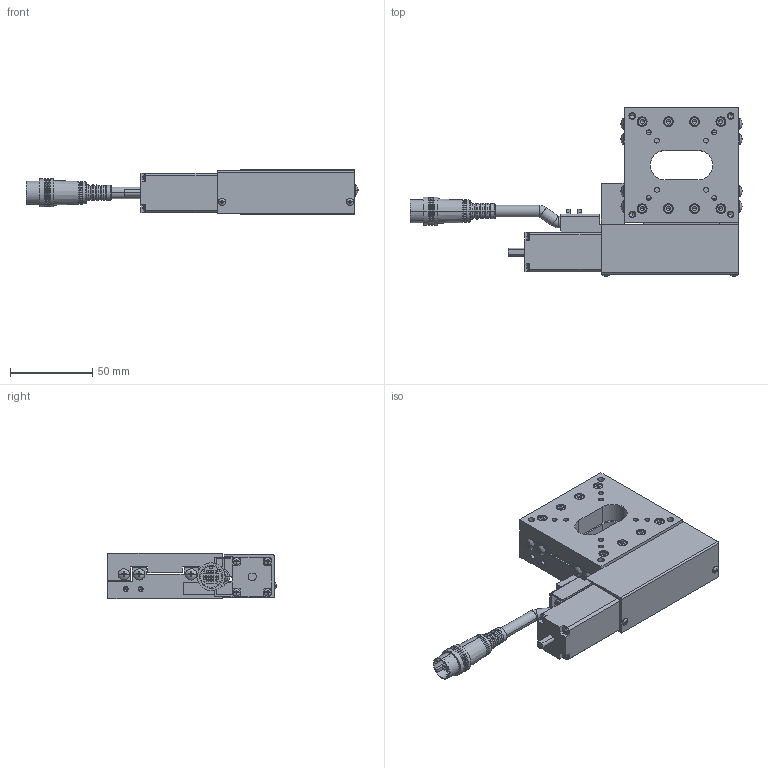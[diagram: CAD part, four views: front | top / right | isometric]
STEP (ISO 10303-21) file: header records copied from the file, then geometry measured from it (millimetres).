
FILE_DESCRIPTION (( 'STEP AP203' ), '1' );
FILE_NAME ('XA07A-R2H01.STEP', '2019-05-29T08:48:00', ( '' ), ( '' ), 'SwSTEP 2.0', 'SolidWorks 2018', '' );
FILE_SCHEMA (( 'CONFIG_CONTROL_DESIGN' ));
Length unit declared in the file: millimetre
Products named in the file (7): base-Part-4; XA07A-R2H01; base-Part-2; table; base; base-Part-1; base-Part-3
Assembly tree (6 placements, depth 3):
  XA07A-R2H01
    base
      base-Part-1
      base-Part-2
      base-Part-3
      base-Part-4
    table
Bounding box: 202.39 x 102.68 x 28 mm (x, y, z)
Volume: 175615.9 mm3; surface area: 66403.1 mm2
Topology: 5 solids, 5 shells, 1550 faces, 3858 edges, 2362 vertices
Faces by surface type: plane 955, cylinder 313, cone 208, sphere 38, torus 36
Entity records: 46160 total; most frequent: DIRECTION 8201, CARTESIAN_POINT 7912, ORIENTED_EDGE 7572, EDGE_CURVE 3786, AXIS2_PLACEMENT_3D 2909, VECTOR 2383, LINE 2383, VERTEX_POINT 2356
